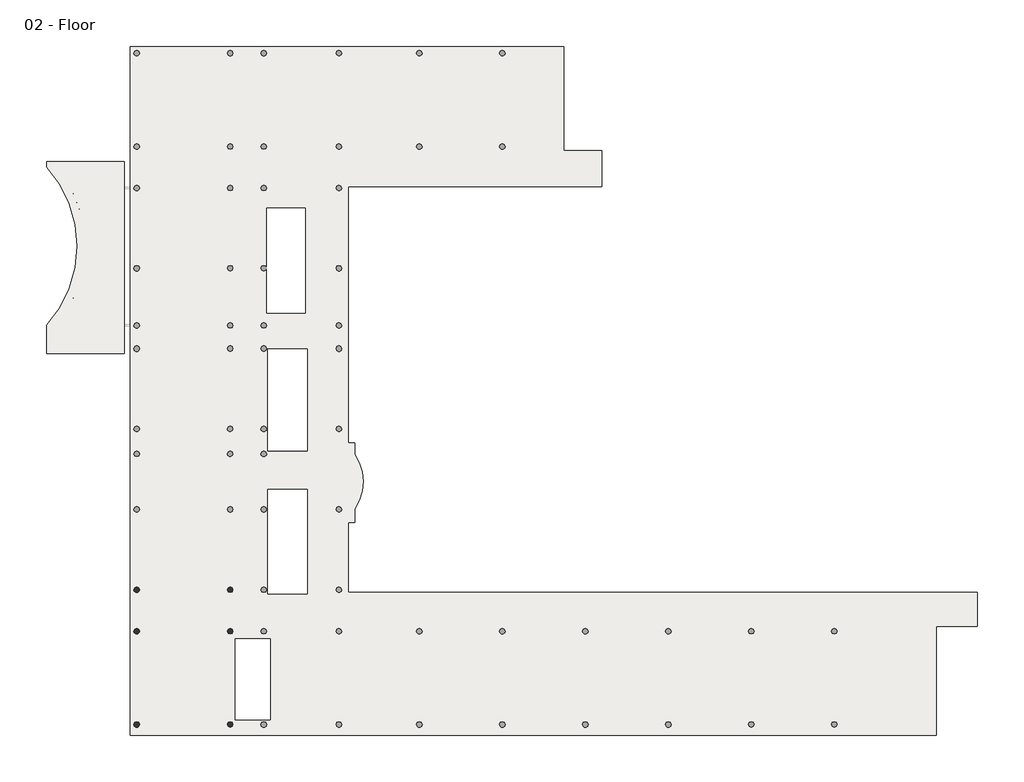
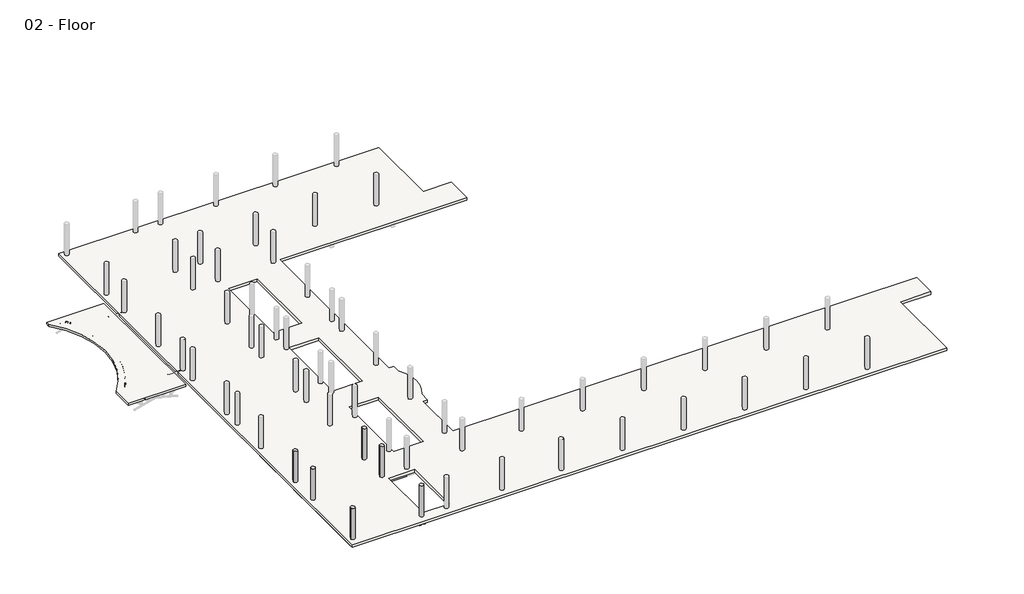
# One storey, part 1 of 9: 11 beams, 6 columns, 2 slabs.
"""IFC4 building model written with IfcOpenShell, lengths in millimetres."""

from ifc_helpers import new_model, si_unit, point, frame, frame_2d, origin, place, context, project, spatial, polyline, circle_curve, trimmed, segment, composite_curve, outline, extrude, element, save
from ifc_brep_helpers import plane_surface, cylinder_surface, revolved_surface, advanced_brep

model = new_model("IFC4")

# Units and contexts
model_context = context("Model", 3, world=origin())
ifc_project = project(units=[si_unit("LENGTHUNIT", "METRE", prefix="MILLI")], contexts=[model_context])

# Site, building, storey
site = spatial("IfcSite", under=ifc_project)
building = spatial("IfcBuilding", under=site)
storey = spatial("IfcBuildingStorey", under=building, Name="02 - Floor", Elevation=3800.0)

# Beams
placement = place(None, origin())
element("IfcBeam", 1, ObjectType="M_Concrete-Rectangular Beam : 400 x 800mm", at=placement, inside=storey, context=model_context, shape_type="SweptSolid", body=[
    extrude(outline(composite_curve([segment(trimmed(circle_curve(frame_2d((-9201.9994416, -5769.4613801)), 225.0), [point((-9401.9994416, -5872.5390207))], [point((-9098.921801, -5969.4613801))], True, "CARTESIAN"), True, "CONTINUOUS"), segment(polyline([(-9098.921801, -5969.4613801), (-9001.9994416, -5969.4613801), (-9001.9994416, -11965.5837394)]), True, "CONTINUOUS"), segment(trimmed(circle_curve(frame_2d((-9201.9994416, -12068.6613801)), 225.0), [point((-9001.9994416, -11965.5837394))], [point((-9401.9994416, -11965.5837394))], True, "CARTESIAN"), True, "CONTINUOUS"), segment(polyline([(-9401.9994416, -11965.5837394), (-9401.9994416, -5872.5390207)]), True, "CONTINUOUS")], self_intersect=False)), frame((0.0, 0.0, 3000.0), z_axis=(0.0, 0.0, 1.0), x_axis=(1.0, 0.0, 0.0)), (0.0, 0.0, 1.0), 500.0),
])
element("IfcBeam", 2, ObjectType="M_Concrete-Rectangular Beam : 400 x 800mm", at=placement, inside=storey, context=model_context, shape_type="AdvancedBrep", body=[
    advanced_brep(
    [(-9401.9994416, -12171.7390207, 3000.0), (-9401.9994416, -15216.7837394, 3000.0), (-9401.9994416, -15216.7837394, 3500.0), (-9401.9994416, -12171.7390207, 3500.0), (-9001.9994416, -12171.7390207, 3000.0), (-9001.9994416, -15119.8613801, 3000.0), (-9001.9994416, -15216.7837394, 3000.0), (-9001.9994416, -12171.7390207, 3500.0), (-9001.9994416, -15119.8613801, 3500.0), (-9001.9994416, -15216.7837394, 3500.0)],
    [
        (0, 1),
        (1, 2),
        (2, 3),
        (3, 0),
        (0, 4, circle_curve(frame((-9201.9994416, -12068.6613801, 3000.0), z_axis=(0.0, 0.0, 1.0), x_axis=(-1.0, 0.0, 0.0)), 225.0)),
        (4, 5),
        (5, 6),
        (6, 1, circle_curve(frame((-9201.9994416, -15319.8613801, 3000.0), z_axis=(0.0, 0.0, 1.0), x_axis=(-1.0, 0.0, 0.0)), 225.0)),
        (4, 7),
        (7, 8),
        (8, 9),
        (9, 6),
        (3, 7, circle_curve(frame((-9201.9994416, -12068.6613801, 3500.0), z_axis=(0.0, 0.0, 1.0), x_axis=(-1.0, 0.0, 0.0)), 225.0)),
        (9, 2, circle_curve(frame((-9201.9994416, -15319.8613801, 3500.0), z_axis=(0.0, 0.0, 1.0), x_axis=(-1.0, 0.0, 0.0)), 225.0)),
    ],
    [
        plane_surface(frame((-9401.9994416, -15082.1613801, 3400.0), z_axis=(-1.0, 0.0, 0.0), x_axis=(0.0, 0.0, -1.0))),
        plane_surface(frame((-9201.9994416, -15082.1613801, 3000.0), z_axis=(0.0, 0.0, -1.0), x_axis=(1.0, 0.0, 0.0))),
        plane_surface(frame((-9001.9994416, -15082.1613801, 3400.0), z_axis=(1.0, 0.0, 0.0), x_axis=(0.0, 0.0, 1.0))),
        revolved_surface(polyline([(-9426.9994416, -12068.6613801, 3500.0), (-9426.9994416, -12068.6613801, 3000.0)]), (-9201.9994416, -12068.6613801, 0.0), (0.0, 0.0, 1.0)),
        revolved_surface(polyline([(-9426.9994416, -15319.8613801, 3500.0), (-9426.9994416, -15319.8613801, 3000.0)]), (-9201.9994416, -15319.8613801, 0.0), (0.0, 0.0, 1.0)),
        plane_surface(frame((24268.8999097, 30514.0407562, 3500.0), z_axis=(0.0, 0.0, 1.0), x_axis=(0.0, -1.0, 0.0))),
    ],
    [
        (0, [[1, 2, 3, 4]]),
        (1, [[5, 6, 7, 8, -1]]),
        (2, [[-7, -6, 9, 10, 11, 12]]),
        (3, [[-5, -4, 13, -9]]),
        (4, [[-8, -12, 14, -2]]),
        (5, [[-3, -14, -11, -10, -13]]),
    ],
),
])
element("IfcBeam", 3, ObjectType="M_Concrete-Rectangular Beam : 400 x 800mm", at=placement, inside=storey, context=model_context, shape_type="AdvancedBrep", body=[
    advanced_brep(
    [(-9401.9994416, -15422.9390207, 3000.0), (-9401.9994416, -22531.9837394, 3000.0), (-9401.9994416, -22531.9837394, 3500.0), (-9401.9994416, -15422.9390207, 3500.0), (-9098.921801, -15519.8613801, 3000.0), (-9001.9994416, -15519.8613801, 3000.0), (-9001.9994416, -16948.6613801, 3000.0), (-9001.9994416, -17348.6613801, 3000.0), (-9001.9994416, -18777.4613801, 3000.0), (-9001.9994416, -19177.4613801, 3000.0), (-9001.9994416, -20606.2613801, 3000.0), (-9001.9994416, -21006.2613801, 3000.0), (-9001.9994416, -22435.0613801, 3000.0), (-9001.9994416, -22531.9837394, 3000.0), (-9001.9994416, -15519.8613801, 3500.0), (-9001.9994416, -16948.6613801, 3500.0), (-9001.9994416, -17348.6613801, 3500.0), (-9001.9994416, -18777.4613801, 3500.0), (-9001.9994416, -19177.4613801, 3500.0), (-9001.9994416, -20606.2613801, 3500.0), (-9001.9994416, -21006.2613801, 3500.0), (-9001.9994416, -22435.0613801, 3500.0), (-9001.9994416, -22531.9837394, 3500.0), (-9098.921801, -15519.8613801, 3500.0)],
    [
        (0, 1),
        (1, 2),
        (2, 3),
        (3, 0),
        (0, 4, circle_curve(frame((-9201.9994416, -15319.8613801, 3000.0), z_axis=(0.0, 0.0, 1.0), x_axis=(-1.0, 0.0, 0.0)), 225.0)),
        (4, 5),
        (5, 6),
        (6, 7),
        (7, 8),
        (8, 9),
        (9, 10),
        (10, 11),
        (11, 12),
        (12, 13),
        (13, 1, circle_curve(frame((-9201.9994416, -22635.0613801, 3000.0), z_axis=(0.0, 0.0, 1.0), x_axis=(-1.0, 0.0, 0.0)), 225.0)),
        (5, 14),
        (14, 15),
        (15, 16),
        (16, 17),
        (17, 18),
        (18, 19),
        (19, 20),
        (20, 21),
        (21, 22),
        (22, 13),
        (3, 23, circle_curve(frame((-9201.9994416, -15319.8613801, 3500.0), z_axis=(0.0, 0.0, 1.0), x_axis=(-1.0, 0.0, 0.0)), 225.0)),
        (23, 4),
        (23, 14),
        (22, 2, circle_curve(frame((-9201.9994416, -22635.0613801, 3500.0), z_axis=(0.0, 0.0, 1.0), x_axis=(-1.0, 0.0, 0.0)), 225.0)),
    ],
    [
        plane_surface(frame((-9401.9994416, -22397.3613801, 3800.0), z_axis=(-1.0, 0.0, 0.0), x_axis=(0.0, 1.0, 0.0))),
        plane_surface(frame((-9401.9994416, -22397.3613801, 3000.0), z_axis=(0.0, 0.0, -1.0), x_axis=(0.0, 1.0, 0.0))),
        plane_surface(frame((-9001.9994416, -22397.3613801, 3000.0), z_axis=(1.0, 0.0, 0.0), x_axis=(0.0, 1.0, 0.0))),
        revolved_surface(polyline([(-9426.9994416, -15319.8613801, 3500.0), (-9426.9994416, -15319.8613801, 3000.0)]), (-9201.9994416, -15319.8613801, 0.0), (0.0, 0.0, 1.0)),
        plane_surface(frame((-8964.2994416, -15519.8613801, 3000.0), z_axis=(0.0, 1.0, 0.0), x_axis=(1.0, 0.0, 0.0))),
        revolved_surface(polyline([(-9426.9994416, -22635.0613801, 3500.0), (-9426.9994416, -22635.0613801, 3000.0)]), (-9201.9994416, -22635.0613801, 0.0), (0.0, 0.0, 1.0)),
        plane_surface(frame((24268.8999097, 30514.0407562, 3500.0), z_axis=(0.0, 0.0, 1.0), x_axis=(0.0, -1.0, 0.0))),
    ],
    [
        (0, [[1, 2, 3, 4]]),
        (1, [[5, 6, 7, 8, 9, 10, 11, 12, 13, 14, 15, -1]]),
        (2, [[-14, -13, -12, -11, -10, -9, -8, -7, 16, 17, 18, 19, 20, 21, 22, 23, 24, 25]]),
        (3, [[-5, -4, 26, 27]]),
        (4, [[-6, -27, 28, -16]]),
        (5, [[-15, -25, 29, -2]]),
        (6, [[-3, -29, -24, -23, -22, -21, -20, -19, -18, -17, -28, -26]]),
    ],
),
])
element("IfcBeam", 4, ObjectType="M_Concrete-Rectangular Beam : 400 x 800mm", at=placement, inside=storey, context=model_context, shape_type="SweptSolid", body=[
    extrude(outline(composite_curve([segment(polyline([(554.8005584, -15119.8613801), (554.8005584, -15216.7837394)]), True, "CONTINUOUS"), segment(trimmed(circle_curve(frame_2d((754.8005584, -15319.8613801)), 225.0), [point((554.8005584, -15216.7837394))], [point((529.8005584, -15319.8613801))], True, "CARTESIAN"), True, "CONTINUOUS"), segment(trimmed(circle_curve(frame_2d((754.8005584, -15319.8613801)), 225.0), [point((529.8005584, -15319.8613801))], [point((651.7229178, -15519.8613801))], True, "CARTESIAN"), True, "CONTINUOUS"), segment(polyline([(651.7229178, -15519.8613801), (-1586.7994416, -15519.8613801), (-1586.7994416, -15119.8613801), (554.8005584, -15119.8613801)]), True, "CONTINUOUS")], self_intersect=False)), frame((0.0, 0.0, 3000.0), z_axis=(0.0, 0.0, 1.0), x_axis=(1.0, 0.0, 0.0)), (0.0, 0.0, 1.0), 500.0),
])
element("IfcBeam", 5, ObjectType="M_Concrete-Rectangular Beam : 400 x 800mm", at=placement, inside=storey, context=model_context, shape_type="AdvancedBrep", body=[
    advanced_brep(
    [(-2186.7994416, -15119.8613801, 3000.0), (-3515.5994416, -15119.8613801, 3000.0), (-3915.5994416, -15119.8613801, 3000.0), (-5344.3994416, -15119.8613801, 3000.0), (-5744.3994416, -15119.8613801, 3000.0), (-7173.1994416, -15119.8613801, 3000.0), (-7573.1994416, -15119.8613801, 3000.0), (-9001.9994416, -15119.8613801, 3000.0), (-9001.9994416, -15119.8613801, 3500.0), (-7573.1994416, -15119.8613801, 3500.0), (-7173.1994416, -15119.8613801, 3500.0), (-5744.3994416, -15119.8613801, 3500.0), (-5344.3994416, -15119.8613801, 3500.0), (-3915.5994416, -15119.8613801, 3500.0), (-3515.5994416, -15119.8613801, 3500.0), (-2186.7994416, -15119.8613801, 3500.0), (-9001.9994416, -15216.7837394, 3000.0), (-2186.7994416, -15519.8613801, 3000.0), (-9001.9994416, -15519.8613801, 3000.0), (-9098.921801, -15519.8613801, 3000.0), (-8976.9994416, -15319.8613801, 3000.0), (-2186.7994416, -15519.8613801, 3500.0), (-9001.9994416, -15519.8613801, 3500.0), (-9098.921801, -15519.8613801, 3500.0), (-9001.9994416, -15216.7837394, 3500.0), (-8976.9994416, -15319.8613801, 3500.0)],
    [
        (0, 1),
        (1, 2),
        (2, 3),
        (3, 4),
        (4, 5),
        (5, 6),
        (6, 7),
        (7, 8),
        (8, 9),
        (9, 10),
        (10, 11),
        (11, 12),
        (12, 13),
        (13, 14),
        (14, 15),
        (15, 0),
        (16, 7),
        (0, 17),
        (17, 18),
        (18, 19),
        (19, 20, circle_curve(frame((-9201.9994416, -15319.8613801, 3000.0), z_axis=(0.0, 0.0, 1.0), x_axis=(-1.0, 0.0, 0.0)), 225.0)),
        (20, 16, circle_curve(frame((-9201.9994416, -15319.8613801, 3000.0), z_axis=(0.0, 0.0, 1.0), x_axis=(-1.0, 0.0, 0.0)), 225.0)),
        (17, 21),
        (21, 22),
        (22, 23),
        (23, 19),
        (16, 24),
        (24, 8),
        (23, 25, circle_curve(frame((-9201.9994416, -15319.8613801, 3500.0), z_axis=(0.0, 0.0, 1.0), x_axis=(-1.0, 0.0, 0.0)), 225.0)),
        (25, 20),
        (25, 24, circle_curve(frame((-9201.9994416, -15319.8613801, 3500.0), z_axis=(0.0, 0.0, 1.0), x_axis=(-1.0, 0.0, 0.0)), 225.0)),
        (15, 21),
    ],
    [
        plane_surface(frame((-8964.2994416, -15119.8613801, 3800.0), z_axis=(0.0, 1.0, 0.0), x_axis=(1.0, 0.0, 0.0))),
        plane_surface(frame((-8964.2994416, -15119.8613801, 3000.0), z_axis=(0.0, 0.0, -1.0), x_axis=(1.0, 0.0, 0.0))),
        plane_surface(frame((-8964.2994416, -15519.8613801, 3000.0), z_axis=(0.0, -1.0, 0.0), x_axis=(1.0, 0.0, 0.0))),
        plane_surface(frame((-9001.9994416, -15082.1613801, 3400.0), z_axis=(-1.0, 0.0, 0.0), x_axis=(0.0, 0.0, 1.0))),
        revolved_surface(polyline([(-9426.9994416, -15319.8613801, 3500.0), (-9426.9994416, -15319.8613801, 3000.0)]), (-9201.9994416, -15319.8613801, 0.0), (0.0, 0.0, 1.0)),
        plane_surface(frame((-2186.7994416, -15095.9322965, 2900.0), z_axis=(1.0, 0.0, 0.0), x_axis=(0.0, -1.0, 0.0))),
        plane_surface(frame((24268.8999097, 30514.0407562, 3500.0), z_axis=(0.0, 0.0, 1.0), x_axis=(0.0, -1.0, 0.0))),
    ],
    [
        (0, [[1, 2, 3, 4, 5, 6, 7, 8, 9, 10, 11, 12, 13, 14, 15, 16]]),
        (1, [[17, -7, -6, -5, -4, -3, -2, -1, 18, 19, 20, 21, 22]]),
        (2, [[-20, -19, 23, 24, 25, 26]]),
        (3, [[-17, 27, 28, -8]]),
        (4, [[-21, -26, 29, 30]]),
        (4, [[-22, -30, 31, -27]]),
        (5, [[-18, -16, 32, -23]]),
        (6, [[-15, -14, -13, -12, -11, -10, -9, -28, -31, -29, -25, -24, -32]]),
    ],
),
])
element("IfcBeam", 6, ObjectType="M_Concrete-Rectangular Beam : 400 x 800mm", at=placement, inside=storey, context=model_context, shape_type="SweptSolid", body=[
    extrude(outline(composite_curve([segment(polyline([(-9001.9994416, -22531.9837394), (-9001.9994416, -22435.0613801), (-2186.7994416, -22435.0613801), (-2186.7994416, -22835.0613801), (-9098.921801, -22835.0613801)]), True, "CONTINUOUS"), segment(trimmed(circle_curve(frame_2d((-9201.9994416, -22635.0613801)), 225.0), [point((-9098.921801, -22835.0613801))], [point((-8976.9994416, -22635.0613801))], True, "CARTESIAN"), True, "CONTINUOUS"), segment(trimmed(circle_curve(frame_2d((-9201.9994416, -22635.0613801)), 225.0), [point((-8976.9994416, -22635.0613801))], [point((-9001.9994416, -22531.9837394))], True, "CARTESIAN"), True, "CONTINUOUS")], self_intersect=False)), frame((0.0, 0.0, 3000.0), z_axis=(0.0, 0.0, 1.0), x_axis=(1.0, 0.0, 0.0)), (0.0, 0.0, 1.0), 500.0),
])
element("IfcBeam", 7, ObjectType="M_Concrete-Rectangular Beam : 400 x 800mm", at=placement, inside=storey, context=model_context, shape_type="SweptSolid", body=[
    extrude(outline(polyline([(-9001.9994416, -21006.2613801), (-9001.9994416, -20606.2613801), (-2186.7994416, -20606.2613801), (-2186.7994416, -21006.2613801), (-9001.9994416, -21006.2613801)])), frame((0.0, 0.0, 3000.0), z_axis=(0.0, 0.0, 1.0), x_axis=(1.0, 0.0, 0.0)), (0.0, 0.0, 1.0), 500.0),
])
element("IfcBeam", 8, ObjectType="M_Concrete-Rectangular Beam : 400 x 800mm", at=placement, inside=storey, context=model_context, shape_type="SweptSolid", body=[
    extrude(outline(polyline([(-9001.9994416, -19177.4613801), (-9001.9994416, -18777.4613801), (-2186.7994416, -18777.4613801), (-2186.7994416, -19177.4613801), (-9001.9994416, -19177.4613801)])), frame((0.0, 0.0, 3000.0), z_axis=(0.0, 0.0, 1.0), x_axis=(1.0, 0.0, 0.0)), (0.0, 0.0, 1.0), 500.0),
])
element("IfcBeam", 9, ObjectType="M_Concrete-Rectangular Beam : 400 x 800mm", at=placement, inside=storey, context=model_context, shape_type="SweptSolid", body=[
    extrude(outline(polyline([(-9001.9994416, -17348.6613801), (-9001.9994416, -16948.6613801), (-2186.7994416, -16948.6613801), (-2186.7994416, -17348.6613801), (-9001.9994416, -17348.6613801)])), frame((0.0, 0.0, 3000.0), z_axis=(0.0, 0.0, 1.0), x_axis=(1.0, 0.0, 0.0)), (0.0, 0.0, 1.0), 500.0),
])
element("IfcBeam", 10, ObjectType="M_Concrete-Rectangular Beam : 600 x 900", at=placement, inside=storey, context=model_context, shape_type="AdvancedBrep", body=[
    advanced_brep(
    [(-2186.7994416, -12268.6613801, 2900.0), (-2186.7994416, -15519.8613801, 2900.0), (-2186.7994416, -15519.8613801, 3000.0), (-2186.7994416, -15519.8613801, 3500.0), (-2186.7994416, -15119.8613801, 3500.0), (-2186.7994416, -12268.6613801, 3500.0), (-1989.8770822, -12268.6613801, 2900.0), (-1783.721801, -12268.6613801, 2900.0), (-1586.7994416, -12268.6613801, 2900.0), (-1586.7994416, -15519.8613801, 2900.0), (-1783.721801, -15519.8613801, 2900.0), (-1661.7994416, -15319.8613801, 2900.0), (-2111.7994416, -15319.8613801, 2900.0), (-1989.8770822, -15519.8613801, 2900.0), (-1586.7994416, -12268.6613801, 3500.0), (-1586.7994416, -15119.8613801, 3500.0), (-1586.7994416, -15519.8613801, 3500.0), (-1586.7994416, -15519.8613801, 3000.0), (-1783.721801, -15519.8613801, 3500.0), (-1783.721801, -12268.6613801, 3500.0), (-1989.8770822, -12268.6613801, 3500.0), (-2111.7994416, -15319.8613801, 3500.0), (-1989.8770822, -15519.8613801, 3500.0), (-1661.7994416, -15319.8613801, 3500.0)],
    [
        (0, 1),
        (1, 2),
        (2, 3),
        (3, 4),
        (4, 5),
        (5, 0),
        (0, 6),
        (6, 7, circle_curve(frame((-1886.7994416, -12068.6613801, 2900.0), z_axis=(0.0, 0.0, 1.0), x_axis=(-1.0, 0.0, 0.0)), 225.0)),
        (7, 8),
        (8, 9),
        (9, 10),
        (10, 11, circle_curve(frame((-1886.7994416, -15319.8613801, 2900.0), z_axis=(0.0, 0.0, 1.0), x_axis=(-1.0, 0.0, 0.0)), 225.0)),
        (11, 12, circle_curve(frame((-1886.7994416, -15319.8613801, 2900.0), z_axis=(0.0, 0.0, 1.0), x_axis=(-1.0, 0.0, 0.0)), 225.0)),
        (12, 13, circle_curve(frame((-1886.7994416, -15319.8613801, 2900.0), z_axis=(0.0, 0.0, 1.0), x_axis=(-1.0, 0.0, 0.0)), 225.0)),
        (13, 1),
        (8, 14),
        (14, 15),
        (15, 16),
        (16, 17),
        (17, 9),
        (16, 18),
        (18, 10),
        (7, 19),
        (19, 14),
        (6, 20),
        (20, 19, circle_curve(frame((-1886.7994416, -12068.6613801, 3500.0), z_axis=(0.0, 0.0, 1.0), x_axis=(-1.0, 0.0, 0.0)), 225.0)),
        (5, 20),
        (12, 21),
        (21, 22, circle_curve(frame((-1886.7994416, -15319.8613801, 3500.0), z_axis=(0.0, 0.0, 1.0), x_axis=(-1.0, 0.0, 0.0)), 225.0)),
        (22, 13),
        (11, 23),
        (23, 21, circle_curve(frame((-1886.7994416, -15319.8613801, 3500.0), z_axis=(0.0, 0.0, 1.0), x_axis=(-1.0, 0.0, 0.0)), 225.0)),
        (22, 3),
        (18, 23, circle_curve(frame((-1886.7994416, -15319.8613801, 3500.0), z_axis=(0.0, 0.0, 1.0), x_axis=(-1.0, 0.0, 0.0)), 225.0)),
    ],
    [
        plane_surface(frame((-2186.7994416, -15082.1613801, 3350.0), z_axis=(-1.0, 0.0, 0.0), x_axis=(0.0, 0.0, -1.0))),
        plane_surface(frame((-1886.7994416, -15082.1613801, 2900.0), z_axis=(0.0, 0.0, -1.0), x_axis=(1.0, 0.0, 0.0))),
        plane_surface(frame((-1586.7994416, -15082.1613801, 3350.0), z_axis=(1.0, 0.0, 0.0), x_axis=(0.0, 0.0, 1.0))),
        plane_surface(frame((-1562.8703581, -15519.8613801, 3800.0), z_axis=(0.0, -1.0, 0.0), x_axis=(-1.0, 0.0, 0.0))),
        plane_surface(frame((-1649.0994416, -12268.6613801, 3400.0), z_axis=(0.0, 1.0, 0.0), x_axis=(0.0, 0.0, 1.0))),
        revolved_surface(polyline([(-2111.7994416, -12068.6613801, 3500.0), (-2111.7994416, -12068.6613801, 2900.0)]), (-1886.7994416, -12068.6613801, 0.0), (0.0, 0.0, 1.0)),
        revolved_surface(polyline([(-2111.7994416, -15319.8613801, 3500.0), (-2111.7994416, -15319.8613801, 2900.0)]), (-1886.7994416, -15319.8613801, 0.0), (0.0, 0.0, 1.0)),
        plane_surface(frame((24268.8999097, 30514.0407562, 3500.0), z_axis=(0.0, 0.0, 1.0), x_axis=(0.0, -1.0, 0.0))),
    ],
    [
        (0, [[1, 2, 3, 4, 5, 6]]),
        (1, [[-1, 7, 8, 9, 10, 11, 12, 13, 14, 15]]),
        (2, [[-10, 16, 17, 18, 19, 20]]),
        (3, [[-11, -20, -19, 21, 22]]),
        (4, [[-9, 23, 24, -16]]),
        (5, [[-8, 25, 26, -23]]),
        (4, [[-7, -6, 27, -25]]),
        (6, [[-14, 28, 29, 30]]),
        (6, [[-13, 31, 32, -28]]),
        (3, [[-15, -30, 33, -3, -2]]),
        (6, [[-12, -22, 34, -31]]),
        (7, [[-5, -4, -33, -29, -32, -34, -21, -18, -17, -24, -26, -27]]),
    ],
),
])
element("IfcBeam", 11, ObjectType="M_Concrete-Rectangular Beam : 600 x 900", at=placement, inside=storey, context=model_context, shape_type="AdvancedBrep", body=[
    advanced_brep(
    [(-2186.7994416, -15519.8613801, 2900.0), (-2186.7994416, -22835.0613801, 2900.0), (-2186.7994416, -22835.0613801, 3000.0), (-2186.7994416, -22835.0613801, 3500.0), (-2186.7994416, -22435.0613801, 3500.0), (-2186.7994416, -21006.2613801, 3500.0), (-2186.7994416, -20606.2613801, 3500.0), (-2186.7994416, -19177.4613801, 3500.0), (-2186.7994416, -18777.4613801, 3500.0), (-2186.7994416, -17348.6613801, 3500.0), (-2186.7994416, -16948.6613801, 3500.0), (-2186.7994416, -15519.8613801, 3500.0), (-1989.8770822, -15519.8613801, 2900.0), (-1783.721801, -15519.8613801, 2900.0), (-1586.7994416, -15519.8613801, 2900.0), (-1586.7994416, -22835.0613801, 2900.0), (-1783.721801, -22835.0613801, 2900.0), (-1661.7994416, -22635.0613801, 2900.0), (-2111.7994416, -22635.0613801, 2900.0), (-1989.8770822, -22835.0613801, 2900.0), (-1586.7994416, -15519.8613801, 3500.0), (-1586.7994416, -22435.0613801, 3500.0), (-1586.7994416, -22835.0613801, 3500.0), (-1586.7994416, -22835.0613801, 3000.0), (-1783.721801, -22835.0613801, 3500.0), (-1783.721801, -15519.8613801, 3500.0), (-1989.8770822, -15519.8613801, 3500.0), (-2111.7994416, -22635.0613801, 3500.0), (-1989.8770822, -22835.0613801, 3500.0), (-1661.7994416, -22635.0613801, 3500.0)],
    [
        (0, 1),
        (1, 2),
        (2, 3),
        (3, 4),
        (4, 5),
        (5, 6),
        (6, 7),
        (7, 8),
        (8, 9),
        (9, 10),
        (10, 11),
        (11, 0),
        (0, 12),
        (12, 13, circle_curve(frame((-1886.7994416, -15319.8613801, 2900.0), z_axis=(0.0, 0.0, 1.0), x_axis=(-1.0, 0.0, 0.0)), 225.0)),
        (13, 14),
        (14, 15),
        (15, 16),
        (16, 17, circle_curve(frame((-1886.7994416, -22635.0613801, 2900.0), z_axis=(0.0, 0.0, 1.0), x_axis=(-1.0, 0.0, 0.0)), 225.0)),
        (17, 18, circle_curve(frame((-1886.7994416, -22635.0613801, 2900.0), z_axis=(0.0, 0.0, 1.0), x_axis=(-1.0, 0.0, 0.0)), 225.0)),
        (18, 19, circle_curve(frame((-1886.7994416, -22635.0613801, 2900.0), z_axis=(0.0, 0.0, 1.0), x_axis=(-1.0, 0.0, 0.0)), 225.0)),
        (19, 1),
        (14, 20),
        (20, 21),
        (21, 22),
        (22, 23),
        (23, 15),
        (22, 24),
        (24, 16),
        (13, 25),
        (25, 20),
        (12, 26),
        (26, 25, circle_curve(frame((-1886.7994416, -15319.8613801, 3500.0), z_axis=(0.0, 0.0, 1.0), x_axis=(-1.0, 0.0, 0.0)), 225.0)),
        (11, 26),
        (18, 27),
        (27, 28, circle_curve(frame((-1886.7994416, -22635.0613801, 3500.0), z_axis=(0.0, 0.0, 1.0), x_axis=(-1.0, 0.0, 0.0)), 225.0)),
        (28, 19),
        (17, 29),
        (29, 27, circle_curve(frame((-1886.7994416, -22635.0613801, 3500.0), z_axis=(0.0, 0.0, 1.0), x_axis=(-1.0, 0.0, 0.0)), 225.0)),
        (28, 3),
        (24, 29, circle_curve(frame((-1886.7994416, -22635.0613801, 3500.0), z_axis=(0.0, 0.0, 1.0), x_axis=(-1.0, 0.0, 0.0)), 225.0)),
    ],
    [
        plane_surface(frame((-2186.7994416, -22397.3613801, 3800.0), z_axis=(-1.0, 0.0, 0.0), x_axis=(0.0, 1.0, 0.0))),
        plane_surface(frame((-2186.7994416, -22397.3613801, 2900.0), z_axis=(0.0, 0.0, -1.0), x_axis=(0.0, 1.0, 0.0))),
        plane_surface(frame((-1586.7994416, -22397.3613801, 2900.0), z_axis=(1.0, 0.0, 0.0), x_axis=(0.0, 1.0, 0.0))),
        plane_surface(frame((-1562.8703581, -22835.0613801, 3800.0), z_axis=(0.0, -1.0, 0.0), x_axis=(-1.0, 0.0, 0.0))),
        plane_surface(frame((-1649.0994416, -15519.8613801, 3400.0), z_axis=(0.0, 1.0, 0.0), x_axis=(0.0, 0.0, 1.0))),
        revolved_surface(polyline([(-2111.7994416, -15319.8613801, 3500.0), (-2111.7994416, -15319.8613801, 2900.0)]), (-1886.7994416, -15319.8613801, 0.0), (0.0, 0.0, 1.0)),
        revolved_surface(polyline([(-2111.7994416, -22635.0613801, 3500.0), (-2111.7994416, -22635.0613801, 2900.0)]), (-1886.7994416, -22635.0613801, 0.0), (0.0, 0.0, 1.0)),
        plane_surface(frame((24268.8999097, 30514.0407562, 3500.0), z_axis=(0.0, 0.0, 1.0), x_axis=(0.0, -1.0, 0.0))),
    ],
    [
        (0, [[1, 2, 3, 4, 5, 6, 7, 8, 9, 10, 11, 12]]),
        (1, [[-1, 13, 14, 15, 16, 17, 18, 19, 20, 21]]),
        (2, [[-16, 22, 23, 24, 25, 26]]),
        (3, [[-17, -26, -25, 27, 28]]),
        (4, [[-15, 29, 30, -22]]),
        (5, [[-14, 31, 32, -29]]),
        (4, [[-13, -12, 33, -31]]),
        (6, [[-20, 34, 35, 36]]),
        (6, [[-19, 37, 38, -34]]),
        (3, [[-21, -36, 39, -3, -2]]),
        (6, [[-18, -28, 40, -37]]),
        (7, [[-11, -10, -9, -8, -7, -6, -5, -4, -39, -35, -38, -40, -27, -24, -23, -30, -32, -33]]),
    ],
),
])

# Columns
element("IfcColumn", 12, ObjectType="M_Concrete-Round-Column : 450mm", at=placement, inside=storey, context=model_context, shape_type="SweptSolid", body=[
    extrude(outline(composite_curve([segment(trimmed(circle_curve(frame_2d((-9201.9994416, -12068.6613801)), 225.0), [point((-8976.9994416, -12068.6613801))], [point((-9426.9994416, -12068.6613801))], False, "CARTESIAN"), True, "CONTINUOUS"), segment(trimmed(circle_curve(frame_2d((-9201.9994416, -12068.6613801)), 225.0), [point((-9426.9994416, -12068.6613801))], [point((-8976.9994416, -12068.6613801))], False, "CARTESIAN"), True, "CONTINUOUS")], self_intersect=False)), frame((0.0, 0.0, 3800.0), z_axis=(0.0, 0.0, 1.0), x_axis=(1.0, 0.0, 0.0)), (0.0, 0.0, 1.0), 3500.0),
])
element("IfcColumn", 13, ObjectType="M_Concrete-Round-Column : 450mm", at=placement, inside=storey, context=model_context, shape_type="SweptSolid", body=[
    extrude(outline(composite_curve([segment(trimmed(circle_curve(frame_2d((-9201.9994416, -15319.8613801)), 225.0), [point((-8976.9994416, -15319.8613801))], [point((-9426.9994416, -15319.8613801))], False, "CARTESIAN"), True, "CONTINUOUS"), segment(trimmed(circle_curve(frame_2d((-9201.9994416, -15319.8613801)), 225.0), [point((-9426.9994416, -15319.8613801))], [point((-8976.9994416, -15319.8613801))], False, "CARTESIAN"), True, "CONTINUOUS")], self_intersect=False)), frame((0.0, 0.0, 3800.0), z_axis=(0.0, 0.0, 1.0), x_axis=(1.0, 0.0, 0.0)), (0.0, 0.0, 1.0), 3500.0),
])
element("IfcColumn", 14, ObjectType="M_Concrete-Round-Column : 450mm", at=placement, inside=storey, context=model_context, shape_type="SweptSolid", body=[
    extrude(outline(composite_curve([segment(trimmed(circle_curve(frame_2d((-9201.9994416, -22635.0613801)), 225.0), [point((-8976.9994416, -22635.0613801))], [point((-9426.9994416, -22635.0613801))], False, "CARTESIAN"), True, "CONTINUOUS"), segment(trimmed(circle_curve(frame_2d((-9201.9994416, -22635.0613801)), 225.0), [point((-9426.9994416, -22635.0613801))], [point((-8976.9994416, -22635.0613801))], False, "CARTESIAN"), True, "CONTINUOUS")], self_intersect=False)), frame((0.0, 0.0, 3800.0), z_axis=(0.0, 0.0, 1.0), x_axis=(1.0, 0.0, 0.0)), (0.0, 0.0, 1.0), 3500.0),
])
element("IfcColumn", 15, ObjectType="M_Concrete-Round-Column : 450mm", at=placement, inside=storey, context=model_context, shape_type="SweptSolid", body=[
    extrude(outline(composite_curve([segment(trimmed(circle_curve(frame_2d((-1886.7994416, -12068.6613801)), 225.0), [point((-1661.7994416, -12068.6613801))], [point((-2111.7994416, -12068.6613801))], False, "CARTESIAN"), True, "CONTINUOUS"), segment(trimmed(circle_curve(frame_2d((-1886.7994416, -12068.6613801)), 225.0), [point((-2111.7994416, -12068.6613801))], [point((-1661.7994416, -12068.6613801))], False, "CARTESIAN"), True, "CONTINUOUS")], self_intersect=False)), frame((0.0, 0.0, 3800.0), z_axis=(0.0, 0.0, 1.0), x_axis=(1.0, 0.0, 0.0)), (0.0, 0.0, 1.0), 3500.0),
])
element("IfcColumn", 16, ObjectType="M_Concrete-Round-Column : 450mm", at=placement, inside=storey, context=model_context, shape_type="SweptSolid", body=[
    extrude(outline(composite_curve([segment(trimmed(circle_curve(frame_2d((-1886.7994416, -15319.8613801)), 225.0), [point((-1661.7994416, -15319.8613801))], [point((-2111.7994416, -15319.8613801))], False, "CARTESIAN"), True, "CONTINUOUS"), segment(trimmed(circle_curve(frame_2d((-1886.7994416, -15319.8613801)), 225.0), [point((-2111.7994416, -15319.8613801))], [point((-1661.7994416, -15319.8613801))], False, "CARTESIAN"), True, "CONTINUOUS")], self_intersect=False)), frame((0.0, 0.0, 3800.0), z_axis=(0.0, 0.0, 1.0), x_axis=(1.0, 0.0, 0.0)), (0.0, 0.0, 1.0), 3500.0),
])
element("IfcColumn", 17, ObjectType="M_Concrete-Round-Column : 450mm", at=placement, inside=storey, context=model_context, shape_type="SweptSolid", body=[
    extrude(outline(composite_curve([segment(trimmed(circle_curve(frame_2d((-1886.7994416, -22635.0613801)), 225.0), [point((-1661.7994416, -22635.0613801))], [point((-2111.7994416, -22635.0613801))], False, "CARTESIAN"), True, "CONTINUOUS"), segment(trimmed(circle_curve(frame_2d((-1886.7994416, -22635.0613801)), 225.0), [point((-2111.7994416, -22635.0613801))], [point((-1661.7994416, -22635.0613801))], False, "CARTESIAN"), True, "CONTINUOUS")], self_intersect=False)), frame((0.0, 0.0, 3800.0), z_axis=(0.0, 0.0, 1.0), x_axis=(1.0, 0.0, 0.0)), (0.0, 0.0, 1.0), 3500.0),
])

# Slabs
element("IfcSlab", 18, ObjectType="160mm Concrete With 50mm Metal Deck", at=placement, inside=storey, context=model_context, shape_type="SweptSolid", body=[
    extrude(outline(composite_curve([segment(polyline([(-10166.7994416, 21472.0386199), (-10166.7994416, 6441.5886199), (-16262.7994416, 6441.5886199), (-16262.7994416, 8676.7886558)]), True, "CONTINUOUS"), segment(trimmed(circle_curve(frame_2d((-22989.0044803, 14871.2136379)), 9143.9999497), [point((-16262.7994416, 8676.7886558))], [point((-16262.7994416, 21065.6386199))], True, "CARTESIAN"), True, "CONTINUOUS"), segment(polyline([(-16262.7994416, 21065.6386199), (-16262.7994416, 21472.0386199), (-10166.7994416, 21472.0386199)]), True, "CONTINUOUS")], self_intersect=False)), frame((0.0, 0.0, 3600.0), z_axis=(0.0, 0.0, 1.0), x_axis=(1.0, 0.0, 0.0)), (0.0, 0.0, 1.0), 200.0),
])
element("IfcSlab", 19, ObjectType="Generic Concrete 300mm", at=placement, inside=storey, context=model_context, shape_type="AdvancedBrep", body=[
    advanced_brep(
    [(24268.8999097, 30514.0407562, 3500.0), (24268.8999097, 30193.7386199, 3500.0), (24268.8999097, 29793.7386199, 3500.0), (24268.8999097, 22878.5386199, 3500.0), (24268.8999097, 22478.5386199, 3500.0), (24268.8999097, 22339.0407562, 3500.0), (27246.5321953, 22339.0407562, 3500.0), (27246.5321953, 19514.0407562, 3500.0), (19599.2005584, 19514.0407562, 3500.0), (19299.2005584, 19514.0407562, 3500.0), (13096.8005584, 19514.0407562, 3500.0), (12796.8005584, 19514.0407562, 3500.0), (7377.7005607, 19514.0407562, 3500.0), (7377.7005607, -585.9592438, 3500.0), (7877.7005607, -585.9592438, 3500.0), (7877.7005607, -1451.7702235, 3500.0), (7877.7005607, -5731.0525366, 3500.0), (7877.7005607, -6796.3611817, 3500.0), (7377.7005607, -6796.3611817, 3500.0), (7377.7005607, -12296.3611817, 3500.0), (12796.8005584, -12296.3611817, 3500.0), (13096.8005584, -12296.3611817, 3500.0), (19299.2005584, -12296.3611817, 3500.0), (19599.2005584, -12296.3611817, 3500.0), (25801.6005584, -12296.3611817, 3500.0), (26101.6005584, -12296.3611817, 3500.0), (32304.0005584, -12296.3611817, 3500.0), (32604.0005584, -12296.3611817, 3500.0), (38806.4005584, -12296.3611817, 3500.0), (39106.4005584, -12296.3611817, 3500.0), (45308.8005584, -12296.3611817, 3500.0), (45608.8005584, -12296.3611817, 3500.0), (56672.578114, -12296.3611817, 3500.0), (56672.578114, -14931.1613815, 3500.0), (53429.578114, -14931.1613815, 3500.0), (53429.578114, -15119.8613801, 3500.0), (53429.578114, -15519.8613801, 3500.0), (53429.578114, -22435.0613801, 3500.0), (53429.578114, -22835.0613801, 3500.0), (53429.578114, -23495.0613801, 3500.0), (-9722.2994393, -23495.0613801, 3500.0), (-9722.2994393, 30514.0407562, 3500.0), (4175.4703938, -4202.2107941, 3500.0), (1065.5703938, -4202.2107941, 3500.0), (1065.5703938, -12416.7107941, 3500.0), (4175.4703938, -12416.7107941, 3500.0), (4175.4703938, 6797.7892059, 3500.0), (1065.5703938, 6797.7892059, 3500.0), (1065.5703938, -1213.3613801, 3500.0), (4175.4703938, -1213.3613801, 3500.0), (4004.8005584, 17837.5399578, 3500.0), (1004.8005584, 17837.5399578, 3500.0), (1004.8005584, 9637.5399578, 3500.0), (4004.8005584, 9637.5399578, 3500.0), (1254.2005607, -15915.4113815, 3500.0), (-1485.7994393, -15915.4113815, 3500.0), (-1485.7994393, -22255.0613801, 3500.0), (1254.2005607, -22255.0613801, 3500.0), (24268.8999097, 22339.0407562, 3800.0), (24268.8999097, 30514.0407562, 3800.0), (-9722.2994393, 30514.0407562, 3800.0), (-9722.2994393, -23495.0613801, 3800.0), (53429.578114, -23495.0613801, 3800.0), (53429.578114, -14931.1613815, 3800.0), (56672.578114, -14931.1613815, 3800.0), (56672.578114, -12296.3611817, 3800.0), (7377.7005607, -12296.3611817, 3800.0), (7377.7005607, -6796.3611817, 3800.0), (7877.7005607, -6796.3611817, 3800.0), (7877.7005607, -5731.0525366, 3800.0), (7877.7005607, -1451.7702235, 3800.0), (7877.7005607, -585.9592438, 3800.0), (7377.7005607, -585.9592438, 3800.0), (7377.7005607, 19514.0407562, 3800.0), (27246.5321953, 19514.0407562, 3800.0), (27246.5321953, 22339.0407562, 3800.0), (1065.5703938, -4202.2107941, 3800.0), (4175.4703938, -4202.2107941, 3800.0), (4175.4703938, -12416.7107941, 3800.0), (1065.5703938, -12416.7107941, 3800.0), (1065.5703938, 6797.7892059, 3800.0), (4175.4703938, 6797.7892059, 3800.0), (4175.4703938, -1213.3613801, 3800.0), (1065.5703938, -1213.3613801, 3800.0), (1004.8005584, 17837.5399578, 3800.0), (4004.8005584, 17837.5399578, 3800.0), (4004.8005584, 9637.5399578, 3800.0), (1004.8005584, 9637.5399578, 3800.0), (-1485.7994393, -15915.4113815, 3800.0), (1254.2005607, -15915.4113815, 3800.0), (1254.2005607, -22255.0613801, 3800.0), (-1485.7994393, -22255.0613801, 3800.0)],
    [
        (0, 1),
        (1, 2),
        (2, 3),
        (3, 4),
        (4, 5),
        (5, 6),
        (6, 7),
        (7, 8),
        (8, 9),
        (9, 10),
        (10, 11),
        (11, 12),
        (12, 13),
        (13, 14),
        (14, 15),
        (15, 16, circle_curve(frame((4785.6664989, -3591.4113801, 3500.0), z_axis=(0.0, 0.0, -1.0), x_axis=(1.0, 0.0, 0.0)), 3760.1514488)),
        (16, 17),
        (17, 18),
        (18, 19),
        (19, 20),
        (20, 21),
        (21, 22),
        (22, 23),
        (23, 24),
        (24, 25),
        (25, 26),
        (26, 27),
        (27, 28),
        (28, 29),
        (29, 30),
        (30, 31),
        (31, 32),
        (32, 33),
        (33, 34),
        (34, 35),
        (35, 36),
        (36, 37),
        (37, 38),
        (38, 39),
        (39, 40),
        (40, 41),
        (41, 0),
        (42, 43),
        (43, 44),
        (44, 45),
        (45, 42),
        (46, 47),
        (47, 48),
        (48, 49),
        (49, 46),
        (50, 51),
        (51, 52),
        (52, 53),
        (53, 50),
        (54, 55),
        (55, 56),
        (56, 57),
        (57, 54),
        (58, 59),
        (59, 60),
        (60, 61),
        (61, 62),
        (62, 63),
        (63, 64),
        (64, 65),
        (65, 66),
        (66, 67),
        (67, 68),
        (68, 69),
        (69, 70, circle_curve(frame((4785.6664989, -3591.4113801, 3800.0), z_axis=(0.0, 0.0, 1.0), x_axis=(1.0, 0.0, 0.0)), 3760.1514488)),
        (70, 71),
        (71, 72),
        (72, 73),
        (73, 74),
        (74, 75),
        (75, 58),
        (76, 77),
        (77, 78),
        (78, 79),
        (79, 76),
        (80, 81),
        (81, 82),
        (82, 83),
        (83, 80),
        (84, 85),
        (85, 86),
        (86, 87),
        (87, 84),
        (88, 89),
        (89, 90),
        (90, 91),
        (91, 88),
        (0, 59),
        (58, 5),
        (75, 6),
        (74, 7),
        (73, 12),
        (72, 13),
        (71, 14),
        (70, 15),
        (69, 16),
        (68, 17),
        (67, 18),
        (66, 19),
        (65, 32),
        (64, 33),
        (63, 34),
        (62, 39),
        (61, 40),
        (60, 41),
        (42, 77),
        (76, 43),
        (79, 44),
        (78, 45),
        (46, 81),
        (80, 47),
        (83, 48),
        (82, 49),
        (50, 85),
        (84, 51),
        (87, 52),
        (86, 53),
        (54, 89),
        (88, 55),
        (91, 56),
        (90, 57),
    ],
    [
        plane_surface(frame((24268.8999097, 30514.0407562, 3500.0), z_axis=(0.0, 0.0, -1.0), x_axis=(0.0, -1.0, 0.0))),
        plane_surface(frame((24268.8999097, 30514.0407562, 3800.0), z_axis=(0.0, 0.0, 1.0), x_axis=(0.0, 1.0, 0.0))),
        plane_surface(frame((24268.8999097, 30514.0407562, 3500.0), z_axis=(1.0, 0.0, 0.0), x_axis=(0.0, 0.0, 1.0))),
        plane_surface(frame((24268.8999097, 22339.0407562, 3500.0), z_axis=(0.0, 1.0, 0.0), x_axis=(0.0, 0.0, 1.0))),
        plane_surface(frame((27246.5321953, 22339.0407562, 3500.0), z_axis=(1.0, 0.0, 0.0), x_axis=(0.0, 0.0, 1.0))),
        plane_surface(frame((27246.5321953, 19514.0407562, 3500.0), z_axis=(0.0, -1.0, 0.0), x_axis=(0.0, 0.0, 1.0))),
        plane_surface(frame((7377.7005607, 19514.0407562, 3500.0), z_axis=(1.0, 0.0, 0.0), x_axis=(0.0, 0.0, 1.0))),
        plane_surface(frame((7377.7005607, -585.9592438, 3500.0), z_axis=(0.0, 1.0, 0.0), x_axis=(0.0, 0.0, 1.0))),
        plane_surface(frame((7877.7005607, -585.9592438, 3500.0), z_axis=(1.0, 0.0, 0.0), x_axis=(0.0, 0.0, 1.0))),
        cylinder_surface(frame((4785.6664989, -3591.4113801, 3800.0), z_axis=(0.0, 0.0, -1.0), x_axis=(1.0, 0.0, 0.0)), 3760.1514488),
        plane_surface(frame((7877.7005607, -5731.0525366, 3500.0), z_axis=(1.0, 0.0, 0.0), x_axis=(0.0, 0.0, 1.0))),
        plane_surface(frame((7877.7005607, -6796.3611817, 3500.0), z_axis=(0.0, -1.0, 0.0), x_axis=(0.0, 0.0, 1.0))),
        plane_surface(frame((7377.7005607, -6796.3611817, 3500.0), z_axis=(1.0, 0.0, 0.0), x_axis=(0.0, 0.0, 1.0))),
        plane_surface(frame((7377.7005607, -12296.3611817, 3500.0), z_axis=(0.0, 1.0, 0.0), x_axis=(0.0, 0.0, 1.0))),
        plane_surface(frame((56672.578114, -12296.3611817, 3500.0), z_axis=(1.0, 0.0, 0.0), x_axis=(0.0, 0.0, 1.0))),
        plane_surface(frame((56672.578114, -14931.1613815, 3500.0), z_axis=(0.0, -1.0, 0.0), x_axis=(0.0, 0.0, 1.0))),
        plane_surface(frame((53429.578114, -14931.1613815, 3500.0), z_axis=(1.0, 0.0, 0.0), x_axis=(0.0, 0.0, 1.0))),
        plane_surface(frame((53429.578114, -23495.0613801, 3500.0), z_axis=(0.0, -1.0, 0.0), x_axis=(0.0, 0.0, 1.0))),
        plane_surface(frame((-9722.2994393, -23495.0613801, 3500.0), z_axis=(-1.0, 0.0, 0.0), x_axis=(0.0, 0.0, 1.0))),
        plane_surface(frame((-9722.2994393, 30514.0407562, 3500.0), z_axis=(0.0, 1.0, 0.0), x_axis=(0.0, 0.0, 1.0))),
        plane_surface(frame((4175.4703938, -4202.2107941, 5004.8), z_axis=(0.0, -1.0, 0.0), x_axis=(0.0, 0.0, -1.0))),
        plane_surface(frame((1065.5703938, -4202.2107941, 5004.8), z_axis=(1.0, 0.0, 0.0), x_axis=(0.0, 0.0, -1.0))),
        plane_surface(frame((1065.5703938, -12416.7107941, 5004.8), z_axis=(0.0, 1.0, 0.0), x_axis=(0.0, 0.0, -1.0))),
        plane_surface(frame((4175.4703938, -12416.7107941, 5004.8), z_axis=(-1.0, 0.0, 0.0), x_axis=(0.0, 0.0, -1.0))),
        plane_surface(frame((4175.4703938, 6797.7892059, 5004.8), z_axis=(0.0, -1.0, 0.0), x_axis=(0.0, 0.0, -1.0))),
        plane_surface(frame((1065.5703938, 6797.7892059, 5004.8), z_axis=(1.0, 0.0, 0.0), x_axis=(0.0, 0.0, -1.0))),
        plane_surface(frame((1065.5703938, -1213.3613801, 5004.8), z_axis=(0.0, 1.0, 0.0), x_axis=(0.0, 0.0, -1.0))),
        plane_surface(frame((4175.4703938, -1213.3613801, 5004.8), z_axis=(-1.0, 0.0, 0.0), x_axis=(0.0, 0.0, -1.0))),
        plane_surface(frame((4004.8005584, 17837.5399578, 5004.8), z_axis=(0.0, -1.0, 0.0), x_axis=(0.0, 0.0, -1.0))),
        plane_surface(frame((1004.8005584, 17837.5399578, 5004.8), z_axis=(1.0, 0.0, 0.0), x_axis=(0.0, 0.0, -1.0))),
        plane_surface(frame((1004.8005584, 9637.5399578, 5004.8), z_axis=(0.0, 1.0, 0.0), x_axis=(0.0, 0.0, -1.0))),
        plane_surface(frame((4004.8005584, 9637.5399578, 5004.8), z_axis=(-1.0, 0.0, 0.0), x_axis=(0.0, 0.0, -1.0))),
        plane_surface(frame((1254.2005607, -15915.4113815, 5004.8), z_axis=(0.0, -1.0, 0.0), x_axis=(0.0, 0.0, -1.0))),
        plane_surface(frame((-1485.7994393, -15915.4113815, 5004.8), z_axis=(1.0, 0.0, 0.0), x_axis=(0.0, 0.0, -1.0))),
        plane_surface(frame((-1485.7994393, -22255.0613801, 5004.8), z_axis=(0.0, 1.0, 0.0), x_axis=(0.0, 0.0, -1.0))),
        plane_surface(frame((1254.2005607, -22255.0613801, 5004.8), z_axis=(-1.0, 0.0, 0.0), x_axis=(0.0, 0.0, -1.0))),
    ],
    [
        (0, [[1, 2, 3, 4, 5, 6, 7, 8, 9, 10, 11, 12, 13, 14, 15, 16, 17, 18, 19, 20, 21, 22, 23, 24, 25, 26, 27, 28, 29, 30, 31, 32, 33, 34, 35, 36, 37, 38, 39, 40, 41, 42], [43, 44, 45, 46], [47, 48, 49, 50], [51, 52, 53, 54], [55, 56, 57, 58]]),
        (1, [[59, 60, 61, 62, 63, 64, 65, 66, 67, 68, 69, 70, 71, 72, 73, 74, 75, 76], [77, 78, 79, 80], [81, 82, 83, 84], [85, 86, 87, 88], [89, 90, 91, 92]]),
        (2, [[-5, -4, -3, -2, -1, 93, -59, 94]]),
        (3, [[-6, -94, -76, 95]]),
        (4, [[-7, -95, -75, 96]]),
        (5, [[-12, -11, -10, -9, -8, -96, -74, 97]]),
        (6, [[-13, -97, -73, 98]]),
        (7, [[-14, -98, -72, 99]]),
        (8, [[-15, -99, -71, 100]]),
        (9, [[-16, -100, -70, 101]]),
        (10, [[-17, -101, -69, 102]]),
        (11, [[-18, -102, -68, 103]]),
        (12, [[-19, -103, -67, 104]]),
        (13, [[-32, -31, -30, -29, -28, -27, -26, -25, -24, -23, -22, -21, -20, -104, -66, 105]]),
        (14, [[-33, -105, -65, 106]]),
        (15, [[-34, -106, -64, 107]]),
        (16, [[-39, -38, -37, -36, -35, -107, -63, 108]]),
        (17, [[-40, -108, -62, 109]]),
        (18, [[-41, -109, -61, 110]]),
        (19, [[-42, -110, -60, -93]]),
        (20, [[111, -77, 112, -43]]),
        (21, [[-112, -80, 113, -44]]),
        (22, [[-113, -79, 114, -45]]),
        (23, [[-111, -46, -114, -78]]),
        (24, [[115, -81, 116, -47]]),
        (25, [[-116, -84, 117, -48]]),
        (26, [[-117, -83, 118, -49]]),
        (27, [[-115, -50, -118, -82]]),
        (28, [[119, -85, 120, -51]]),
        (29, [[-120, -88, 121, -52]]),
        (30, [[-121, -87, 122, -53]]),
        (31, [[-119, -54, -122, -86]]),
        (32, [[123, -89, 124, -55]]),
        (33, [[-124, -92, 125, -56]]),
        (34, [[-125, -91, 126, -57]]),
        (35, [[-123, -58, -126, -90]]),
    ],
),
])

save(model, "model.ifc")
